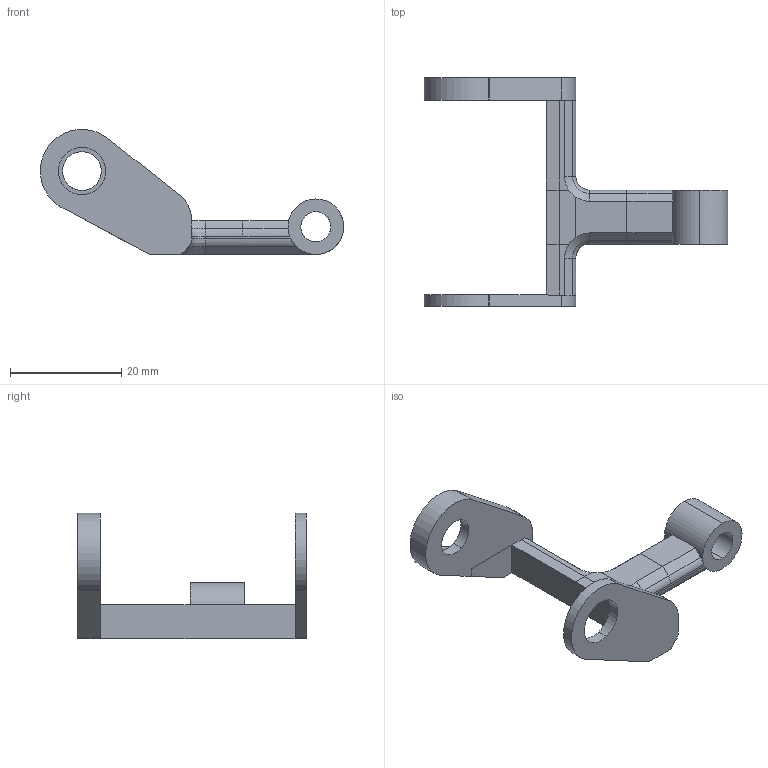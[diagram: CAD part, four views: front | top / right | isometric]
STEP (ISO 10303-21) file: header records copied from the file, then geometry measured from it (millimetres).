
FILE_DESCRIPTION(/* description */ (''),/* implementation_level */ '2;1');
FILE_NAME(/* name */ 'Tetrapod Femur Bot V5 Flipped',/* time_stamp */ '2025-06-02T16:06:51-04:00',/* author */ (''),/* organization */ (''),/* preprocessor_version */ 'ST-DEVELOPER v19.2',/* originating_system */ 'Rhino 8.19',/* authorisation */ '');
FILE_SCHEMA (('CONFIG_CONTROL_DESIGN'));
Length unit declared in the file: millimetre
Products named in the file (1): Document
Bounding box: 54.47 x 41 x 22.47 mm (x, y, z)
Volume: 4290.8 mm3; surface area: 3584.2 mm2
Topology: 1 solids, 2 shells, 97 faces, 247 edges, 152 vertices
Faces by surface type: plane 59, cylinder 30, bspline 8
Entity records: 3175 total; most frequent: CARTESIAN_POINT 1305, ORIENTED_EDGE 496, EDGE_CURVE 248, DIRECTION 155, B_SPLINE_CURVE_WITH_KNOTS 154, VERTEX_POINT 153, AXIS2_PLACEMENT_3D 122, EDGE_LOOP 103
